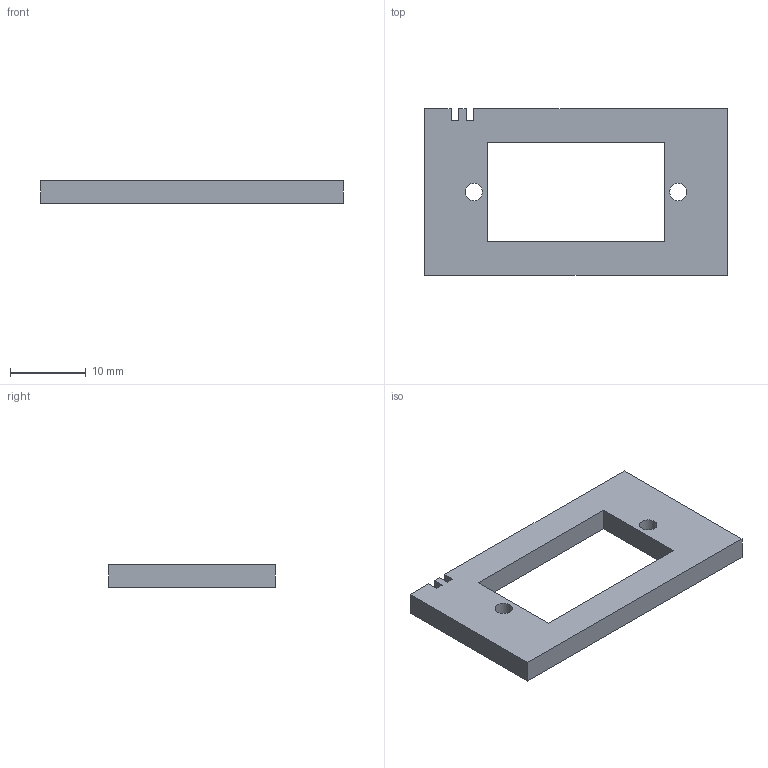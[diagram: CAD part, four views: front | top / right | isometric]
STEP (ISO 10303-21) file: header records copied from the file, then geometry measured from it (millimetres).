
FILE_DESCRIPTION(('Open CASCADE Model'),'2;1');
FILE_NAME('Open CASCADE Shape Model','2026-10-26T16:19:27',('Author'),( 'Open CASCADE'),'Open CASCADE STEP processor 7.8','Open CASCADE 7.8' ,'Unknown');
FILE_SCHEMA(('AUTOMOTIVE_DESIGN { 1 0 10303 214 1 1 1 1 }'));
Length unit declared in the file: millimetre
Products named in the file (1): Open CASCADE STEP translator 7.8 2
Bounding box: 40 x 22 x 3 mm (x, y, z)
Volume: 1682.5 mm3; surface area: 1774.6 mm2
Topology: 1 solids, 1 shells, 20 faces, 54 edges, 36 vertices
Faces by surface type: plane 18, cylinder 2
Full cylindrical faces by diameter (mm): 2.3 x2
Entity records: 1298 total; most frequent: CARTESIAN_POINT 267, DIRECTION 160, ORIENTED_EDGE 108, PCURVE 108, DEFINITIONAL_REPRESENTATION 108, LINE 106, VECTOR 106, EDGE_CURVE 54
